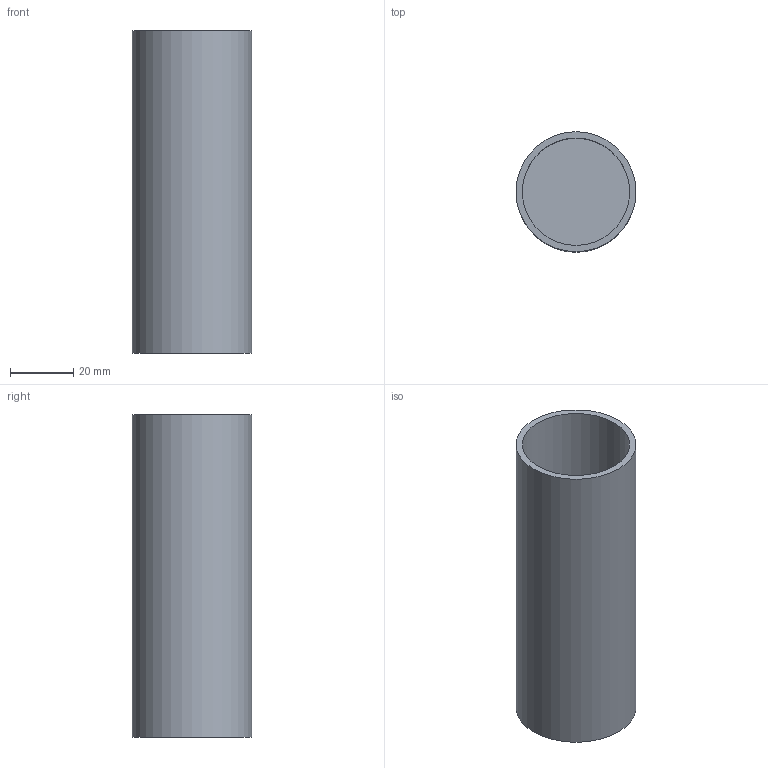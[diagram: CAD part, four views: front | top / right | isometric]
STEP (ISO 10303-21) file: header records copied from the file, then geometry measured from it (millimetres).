
FILE_DESCRIPTION(/* description */ ('STEP AP242','CAx-IF Rec.Pracs.---Representation and Presentation of Product Manufacturing Information (PMI)---4.0---2014-10-13','CAx-IF Rec.Pracs.---3D Tessellated Geometry---0.4---2014-09-14','2;1'),/* implementation_level */ '2;1');
FILE_NAME(/* name */ 'Assembly 1 - Part 1 (7)',/* time_stamp */ '2025-05-18T07:24:53Z',/* author */ (''),/* organization */ (''),/* preprocessor_version */ 'ST-DEVELOPER v20',/* originating_system */ 'ONSHAPE BY PTC INC, 1.198',/* authorisation */ ' ');
FILE_SCHEMA (('AP242_MANAGED_MODEL_BASED_3D_ENGINEERING_MIM_LF { 1 0 10303 442 1 1 4 }'));
Length unit declared in the file: metre
Products named in the file (1): Part 1
Bounding box: 38 x 38 x 102 mm (x, y, z)
Volume: 33495.7 mm3; surface area: 24397.6 mm2
Topology: 1 solids, 1 shells, 7 faces, 9 edges, 6 vertices
Faces by surface type: plane 4, cylinder 3
Full cylindrical faces by diameter (mm): 32 x1, 34 x1, 38 x1
Entity records: 156 total; most frequent: DIRECTION 28, CARTESIAN_POINT 20, AXIS2_PLACEMENT_3D 14, ORIENTED_EDGE 12, EDGE_LOOP 12, FACE_BOUND 12, ADVANCED_FACE 7, EDGE_CURVE 6
